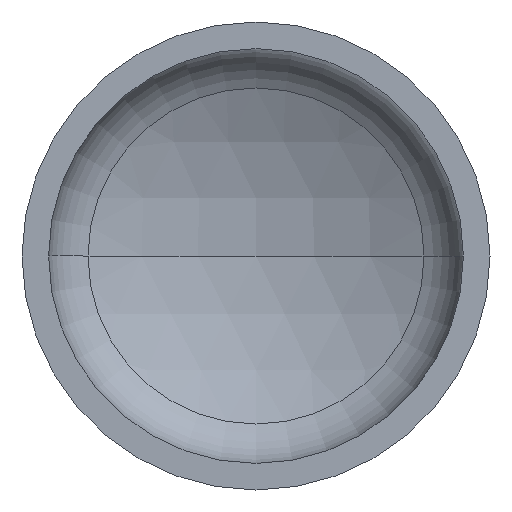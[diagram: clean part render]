
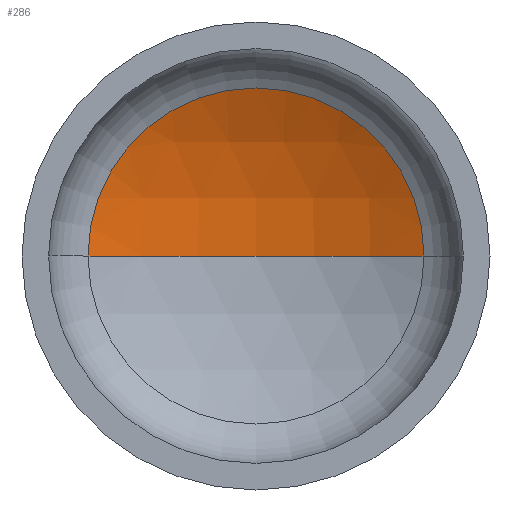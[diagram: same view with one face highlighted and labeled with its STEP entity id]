
A CAD part, front view. The second image highlights one B-rep face of the part: STEP entity #286.
In plain terms, the highlighted spherical face has radius 1520 mm.
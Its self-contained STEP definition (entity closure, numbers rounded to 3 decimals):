
#2 = AXIS2_PLACEMENT_3D ( 'NONE', #250, #7, #271 ) ;
#3 = AXIS2_PLACEMENT_3D ( 'NONE', #200, #202, #376 ) ;
#7 = DIRECTION ( 'NONE',  ( 0., 0., -1. ) ) ;
#17 = EDGE_LOOP ( 'NONE', ( #53, #54, #90 ) ) ;
#18 = AXIS2_PLACEMENT_3D ( 'NONE', #153, #367, #405 ) ;
#35 = AXIS2_PLACEMENT_3D ( 'NONE', #239, #211, #280 ) ;
#37 = SPHERICAL_SURFACE ( 'NONE', #35, 1520. ) ;
#53 = ORIENTED_EDGE ( 'NONE', *, *, #357, .F. ) ;
#54 = ORIENTED_EDGE ( 'NONE', *, *, #375, .T. ) ;
#76 = VERTEX_POINT ( 'NONE', #233 ) ;
#85 = VERTEX_POINT ( 'NONE', #282 ) ;
#90 = ORIENTED_EDGE ( 'NONE', *, *, #379, .T. ) ;
#132 = VERTEX_POINT ( 'NONE', #305 ) ;
#146 = CIRCLE ( 'NONE', #2, 1520. ) ;
#153 = CARTESIAN_POINT ( 'NONE',  ( 0., -1024.18, 0. ) ) ;
#200 = CARTESIAN_POINT ( 'NONE',  ( 0., 334.156, 0. ) ) ;
#202 = DIRECTION ( 'NONE',  ( 0., -1., 0. ) ) ;
#211 = DIRECTION ( 'NONE',  ( 0., 0., -1. ) ) ;
#233 = CARTESIAN_POINT ( 'NONE',  ( 0., 495.82, 0. ) ) ;
#239 = CARTESIAN_POINT ( 'NONE',  ( 0., -1024.18, 0. ) ) ;
#250 = CARTESIAN_POINT ( 'NONE',  ( 0., -1024.18, 0. ) ) ;
#258 = FACE_OUTER_BOUND ( 'NONE', #17, .T. ) ;
#271 = DIRECTION ( 'NONE',  ( -1., 0., 0. ) ) ;
#273 = CIRCLE ( 'NONE', #3, 682.146 ) ;
#277 = CIRCLE ( 'NONE', #18, 1520. ) ;
#280 = DIRECTION ( 'NONE',  ( -1., 0., 0. ) ) ;
#282 = CARTESIAN_POINT ( 'NONE',  ( -682.146, 334.156, 0. ) ) ;
#286 = ADVANCED_FACE ( 'NONE', ( #258 ), #37, .F. ) ;
#305 = CARTESIAN_POINT ( 'NONE',  ( 682.146, 334.156, 0. ) ) ;
#357 = EDGE_CURVE ( 'NONE', #76, #85, #277, .T. ) ;
#367 = DIRECTION ( 'NONE',  ( 0., 0., 1. ) ) ;
#375 = EDGE_CURVE ( 'NONE', #76, #132, #146, .T. ) ;
#376 = DIRECTION ( 'NONE',  ( 1., 0., 0. ) ) ;
#379 = EDGE_CURVE ( 'NONE', #132, #85, #273, .T. ) ;
#405 = DIRECTION ( 'NONE',  ( 1., 0., 0. ) ) ;
